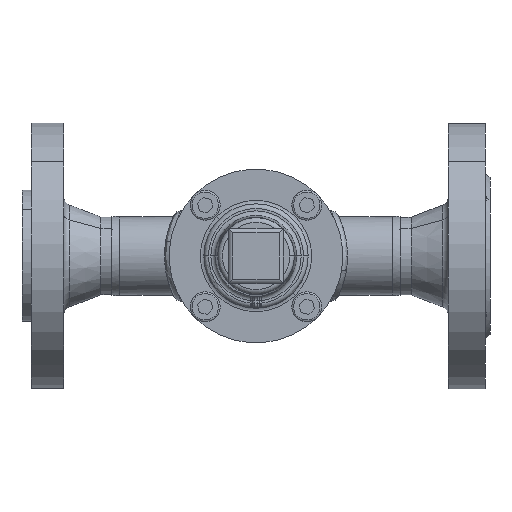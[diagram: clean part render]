
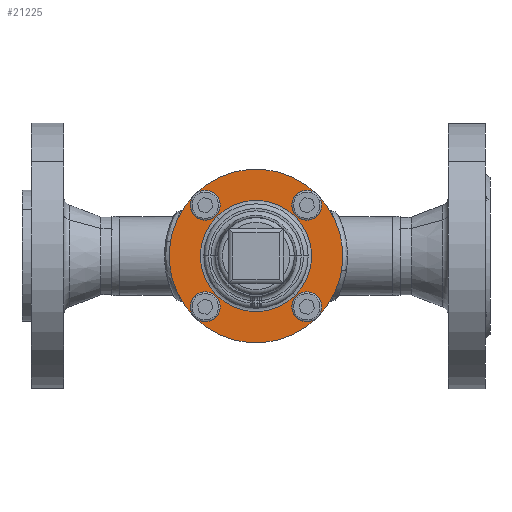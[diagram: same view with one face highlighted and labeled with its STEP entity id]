
A CAD part, front view. The second image highlights one B-rep face of the part: STEP entity #21225.
In plain terms, the highlighted planar face has unit normal (0, -1, 0) as drawn and (0, 0, -1) by its records, which use the part's own axes.
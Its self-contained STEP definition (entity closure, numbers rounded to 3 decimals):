
#16636 = CARTESIAN_POINT ( 'NONE',  ( 35.5, 0., -14. ) ) ;
#394 = EDGE_CURVE ( 'NONE', #3441, #3974, #13101, .T. ) ;
#634 = CIRCLE ( 'NONE', #635, 4.5 ) ;
#635 = AXIS2_PLACEMENT_3D ( 'NONE', #636, #637, #638 ) ;
#636 = CARTESIAN_POINT ( 'NONE',  ( 0., 31., -14. ) ) ;
#637 = DIRECTION ( 'NONE',  ( 0., 0., -1. ) ) ;
#638 = DIRECTION ( 'NONE',  ( -1., 0., 0. ) ) ;
#17318 = EDGE_LOOP ( 'NONE', ( #16327, #14624 ) ) ;
#1105 = ORIENTED_EDGE ( 'NONE', *, *, #394, .F. ) ;
#17779 = ORIENTED_EDGE ( 'NONE', *, *, #18697, .F. ) ;
#18268 = VERTEX_POINT ( 'NONE', #3049 ) ;
#18364 = CIRCLE ( 'NONE', #18365, 4.5 ) ;
#18365 = AXIS2_PLACEMENT_3D ( 'NONE', #18366, #18367, #18368 ) ;
#18366 = CARTESIAN_POINT ( 'NONE',  ( 31., 0., -14. ) ) ;
#18367 = DIRECTION ( 'NONE',  ( 0., 0., -1. ) ) ;
#18368 = DIRECTION ( 'NONE',  ( 0., 1., 0. ) ) ;
#18697 = EDGE_CURVE ( 'NONE', #20397, #18268, #4238, .T. ) ;
#18769 = EDGE_CURVE ( 'NONE', #18268, #20397, #4252, .T. ) ;
#3049 = CARTESIAN_POINT ( 'NONE',  ( -35.5, 0., -14. ) ) ;
#19440 = ORIENTED_EDGE ( 'NONE', *, *, #25068, .F. ) ;
#19474 = ORIENTED_EDGE ( 'NONE', *, *, #18769, .F. ) ;
#3441 = VERTEX_POINT ( 'NONE', #26060 ) ;
#3783 = VERTEX_POINT ( 'NONE', #26420 ) ;
#20291 = EDGE_CURVE ( 'NONE', #13131, #12714, #5693, .T. ) ;
#3974 = VERTEX_POINT ( 'NONE', #26621 ) ;
#20397 = VERTEX_POINT ( 'NONE', #5802 ) ;
#20468 = EDGE_LOOP ( 'NONE', ( #19474, #17779 ) ) ;
#4204 = EDGE_CURVE ( 'NONE', #3974, #3441, #26830, .T. ) ;
#4238 = CIRCLE ( 'NONE', #4239, 4.5 ) ;
#4239 = AXIS2_PLACEMENT_3D ( 'NONE', #4240, #4241, #4242 ) ;
#4240 = CARTESIAN_POINT ( 'NONE',  ( -31., 0., -14. ) ) ;
#4241 = DIRECTION ( 'NONE',  ( 0., 0., -1. ) ) ;
#4242 = DIRECTION ( 'NONE',  ( 0., -1., 0. ) ) ;
#4252 = CIRCLE ( 'NONE', #4253, 4.5 ) ;
#4253 = AXIS2_PLACEMENT_3D ( 'NONE', #4254, #4255, #4256 ) ;
#4254 = CARTESIAN_POINT ( 'NONE',  ( -31., 0., -14. ) ) ;
#4255 = DIRECTION ( 'NONE',  ( 0., 0., -1. ) ) ;
#4256 = DIRECTION ( 'NONE',  ( 0., -1., 0. ) ) ;
#20762 = EDGE_LOOP ( 'NONE', ( #19440, #24148 ) ) ;
#20933 = ORIENTED_EDGE ( 'NONE', *, *, #21941, .F. ) ;
#21225 = ADVANCED_FACE ( 'NONE', ( #11515, #11516, #11517, #11518, #11519, #11520 ), #11541, .F. ) ;
#21508 = VERTEX_POINT ( 'NONE', #11650 ) ;
#21941 = EDGE_CURVE ( 'NONE', #3783, #21508, #13481, .T. ) ;
#21942 = EDGE_CURVE ( 'NONE', #21508, #3783, #13486, .T. ) ;
#5693 = CIRCLE ( 'NONE', #5694, 24. ) ;
#5694 = AXIS2_PLACEMENT_3D ( 'NONE', #5695, #5703, #5704 ) ;
#5695 = CARTESIAN_POINT ( 'NONE',  ( 0., 0., -14. ) ) ;
#5703 = DIRECTION ( 'NONE',  ( 0., 0., 1. ) ) ;
#5704 = DIRECTION ( 'NONE',  ( 1., 0., 0. ) ) ;
#5802 = CARTESIAN_POINT ( 'NONE',  ( -26.5, 0., -14. ) ) ;
#22559 = CIRCLE ( 'NONE', #22560, 4.5 ) ;
#22560 = AXIS2_PLACEMENT_3D ( 'NONE', #22561, #22562, #22563 ) ;
#22561 = CARTESIAN_POINT ( 'NONE',  ( 0., 31., -14. ) ) ;
#22562 = DIRECTION ( 'NONE',  ( 0., 0., -1. ) ) ;
#22563 = DIRECTION ( 'NONE',  ( -1., 0., 0. ) ) ;
#22567 = ORIENTED_EDGE ( 'NONE', *, *, #21942, .F. ) ;
#23690 = EDGE_LOOP ( 'NONE', ( #22567, #20933 ) ) ;
#24004 = CARTESIAN_POINT ( 'NONE',  ( 4.5, 31., -14. ) ) ;
#24148 = ORIENTED_EDGE ( 'NONE', *, *, #8147, .F. ) ;
#24274 = CIRCLE ( 'NONE', #24275, 24. ) ;
#24275 = AXIS2_PLACEMENT_3D ( 'NONE', #24276, #24277, #24278 ) ;
#24276 = CARTESIAN_POINT ( 'NONE',  ( 0., 0., -14. ) ) ;
#24277 = DIRECTION ( 'NONE',  ( 0., 0., 1. ) ) ;
#24278 = DIRECTION ( 'NONE',  ( 1., 0., 0. ) ) ;
#7911 = VERTEX_POINT ( 'NONE', #13701 ) ;
#24323 = VERTEX_POINT ( 'NONE', #16636 ) ;
#8147 = EDGE_CURVE ( 'NONE', #24323, #7911, #14045, .T. ) ;
#25068 = EDGE_CURVE ( 'NONE', #7911, #24323, #18364, .T. ) ;
#26060 = CARTESIAN_POINT ( 'NONE',  ( -37.5, 0., -14. ) ) ;
#26328 = CARTESIAN_POINT ( 'NONE',  ( 24., 0., -14. ) ) ;
#26420 = CARTESIAN_POINT ( 'NONE',  ( 4.5, -31., -14. ) ) ;
#26469 = CARTESIAN_POINT ( 'NONE',  ( -24., 0., -14. ) ) ;
#26621 = CARTESIAN_POINT ( 'NONE',  ( 37.5, 0., -14. ) ) ;
#26830 = CIRCLE ( 'NONE', #26831, 37.5 ) ;
#26831 = AXIS2_PLACEMENT_3D ( 'NONE', #26832, #26833, #26834 ) ;
#26832 = CARTESIAN_POINT ( 'NONE',  ( 0., 0., -14. ) ) ;
#26833 = DIRECTION ( 'NONE',  ( 0., 0., 1. ) ) ;
#26834 = DIRECTION ( 'NONE',  ( 1., 0., 0. ) ) ;
#10577 = ORIENTED_EDGE ( 'NONE', *, *, #4204, .F. ) ;
#26997 = CARTESIAN_POINT ( 'NONE',  ( -4.5, 31., -14. ) ) ;
#10802 = EDGE_CURVE ( 'NONE', #11522, #13493, #22559, .T. ) ;
#10946 = EDGE_LOOP ( 'NONE', ( #10577, #1105 ) ) ;
#11191 = ORIENTED_EDGE ( 'NONE', *, *, #20291, .T. ) ;
#11515 = FACE_BOUND ( 'NONE', #20762, .T. ) ;
#11516 = FACE_BOUND ( 'NONE', #23690, .T. ) ;
#11517 = FACE_BOUND ( 'NONE', #20468, .T. ) ;
#11518 = FACE_BOUND ( 'NONE', #17318, .T. ) ;
#11519 = FACE_BOUND ( 'NONE', #12715, .T. ) ;
#11520 = FACE_OUTER_BOUND ( 'NONE', #10946, .T. ) ;
#11522 = VERTEX_POINT ( 'NONE', #24004 ) ;
#11541 = PLANE ( 'NONE',  #11542 ) ;
#11542 = AXIS2_PLACEMENT_3D ( 'NONE', #11547, #11548, #11549 ) ;
#11547 = CARTESIAN_POINT ( 'NONE',  ( 0., 0., -14. ) ) ;
#11548 = DIRECTION ( 'NONE',  ( 0., 0., 1. ) ) ;
#11549 = DIRECTION ( 'NONE',  ( 1., 0., 0. ) ) ;
#11650 = CARTESIAN_POINT ( 'NONE',  ( -4.5, -31., -14. ) ) ;
#11737 = EDGE_CURVE ( 'NONE', #12714, #13131, #24274, .T. ) ;
#12128 = ORIENTED_EDGE ( 'NONE', *, *, #11737, .T. ) ;
#12714 = VERTEX_POINT ( 'NONE', #26328 ) ;
#12715 = EDGE_LOOP ( 'NONE', ( #12128, #11191 ) ) ;
#13101 = CIRCLE ( 'NONE', #13102, 37.5 ) ;
#13102 = AXIS2_PLACEMENT_3D ( 'NONE', #13103, #13104, #13105 ) ;
#13103 = CARTESIAN_POINT ( 'NONE',  ( 0., 0., -14. ) ) ;
#13104 = DIRECTION ( 'NONE',  ( 0., 0., 1. ) ) ;
#13105 = DIRECTION ( 'NONE',  ( 1., 0., 0. ) ) ;
#13131 = VERTEX_POINT ( 'NONE', #26469 ) ;
#13481 = CIRCLE ( 'NONE', #13482, 4.5 ) ;
#13482 = AXIS2_PLACEMENT_3D ( 'NONE', #13483, #13484, #13485 ) ;
#13483 = CARTESIAN_POINT ( 'NONE',  ( 0., -31., -14. ) ) ;
#13484 = DIRECTION ( 'NONE',  ( 0., 0., -1. ) ) ;
#13485 = DIRECTION ( 'NONE',  ( 1., 0., 0. ) ) ;
#13486 = CIRCLE ( 'NONE', #13487, 4.5 ) ;
#13487 = AXIS2_PLACEMENT_3D ( 'NONE', #13488, #13489, #13490 ) ;
#13488 = CARTESIAN_POINT ( 'NONE',  ( 0., -31., -14. ) ) ;
#13489 = DIRECTION ( 'NONE',  ( 0., 0., -1. ) ) ;
#13490 = DIRECTION ( 'NONE',  ( 1., 0., 0. ) ) ;
#13493 = VERTEX_POINT ( 'NONE', #26997 ) ;
#13701 = CARTESIAN_POINT ( 'NONE',  ( 26.5, 0., -14. ) ) ;
#14045 = CIRCLE ( 'NONE', #14046, 4.5 ) ;
#14046 = AXIS2_PLACEMENT_3D ( 'NONE', #14047, #14048, #14049 ) ;
#14047 = CARTESIAN_POINT ( 'NONE',  ( 31., 0., -14. ) ) ;
#14048 = DIRECTION ( 'NONE',  ( 0., 0., -1. ) ) ;
#14049 = DIRECTION ( 'NONE',  ( 0., 1., 0. ) ) ;
#14624 = ORIENTED_EDGE ( 'NONE', *, *, #10802, .F. ) ;
#15614 = EDGE_CURVE ( 'NONE', #13493, #11522, #634, .T. ) ;
#16327 = ORIENTED_EDGE ( 'NONE', *, *, #15614, .F. ) ;
